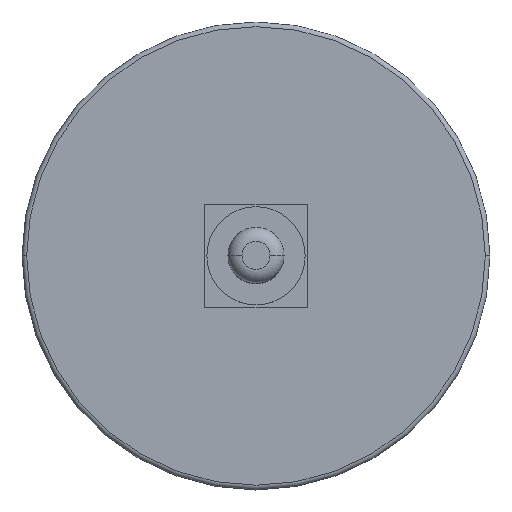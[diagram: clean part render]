
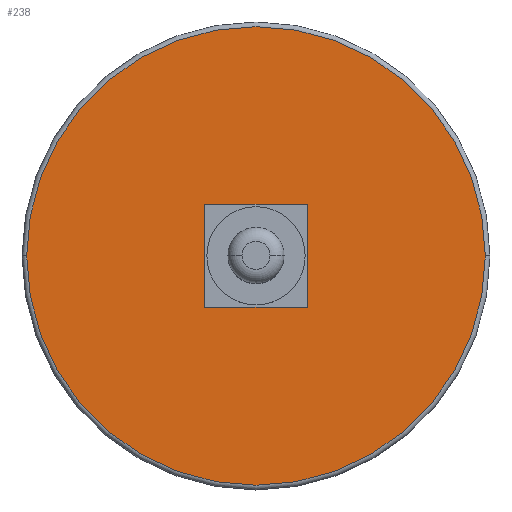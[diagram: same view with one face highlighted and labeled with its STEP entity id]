
A CAD part, top view. The second image highlights one B-rep face of the part: STEP entity #238.
In plain terms, the highlighted planar face has unit normal (0, 0, 1).
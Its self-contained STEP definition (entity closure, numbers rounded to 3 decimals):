
#19 = VECTOR ( 'NONE', #314, 1000. ) ;
#20 = LINE ( 'NONE', #566, #545 ) ;
#29 = LINE ( 'NONE', #488, #19 ) ;
#35 = ORIENTED_EDGE ( 'NONE', *, *, #577, .T. ) ;
#36 = PLANE ( 'NONE',  #229 ) ;
#41 = CIRCLE ( 'NONE', #306, 49. ) ;
#45 = CARTESIAN_POINT ( 'NONE',  ( -11., 11., 11.5 ) ) ;
#49 = AXIS2_PLACEMENT_3D ( 'NONE', #61, #252, #571 ) ;
#61 = CARTESIAN_POINT ( 'NONE',  ( 0., 0., 11.5 ) ) ;
#67 = EDGE_CURVE ( 'NONE', #437, #311, #20, .T. ) ;
#81 = DIRECTION ( 'NONE',  ( 0., 0., 1. ) ) ;
#83 = EDGE_LOOP ( 'NONE', ( #430, #125, #148, #543 ) ) ;
#95 = VECTOR ( 'NONE', #461, 1000. ) ;
#123 = DIRECTION ( 'NONE',  ( 1., 0., 0. ) ) ;
#125 = ORIENTED_EDGE ( 'NONE', *, *, #309, .F. ) ;
#127 = CARTESIAN_POINT ( 'NONE',  ( -11., -11., 11.5 ) ) ;
#148 = ORIENTED_EDGE ( 'NONE', *, *, #289, .F. ) ;
#200 = DIRECTION ( 'NONE',  ( -1., 0., 0. ) ) ;
#202 = EDGE_CURVE ( 'NONE', #395, #437, #29, .T. ) ;
#225 = EDGE_LOOP ( 'NONE', ( #35, #359 ) ) ;
#226 = CARTESIAN_POINT ( 'NONE',  ( 0., 0., 11.5 ) ) ;
#229 = AXIS2_PLACEMENT_3D ( 'NONE', #226, #405, #590 ) ;
#231 = CIRCLE ( 'NONE', #49, 49. ) ;
#233 = DIRECTION ( 'NONE',  ( 0., -1., 0. ) ) ;
#235 = CARTESIAN_POINT ( 'NONE',  ( -49., 0., 11.5 ) ) ;
#238 = ADVANCED_FACE ( 'NONE', ( #361, #353 ), #36, .T. ) ;
#252 = DIRECTION ( 'NONE',  ( 0., 0., 1. ) ) ;
#278 = LINE ( 'NONE', #409, #95 ) ;
#289 = EDGE_CURVE ( 'NONE', #311, #574, #412, .T. ) ;
#290 = CARTESIAN_POINT ( 'NONE',  ( 49., 0., 11.5 ) ) ;
#294 = VERTEX_POINT ( 'NONE', #235 ) ;
#306 = AXIS2_PLACEMENT_3D ( 'NONE', #389, #81, #123 ) ;
#309 = EDGE_CURVE ( 'NONE', #574, #395, #278, .T. ) ;
#311 = VERTEX_POINT ( 'NONE', #45 ) ;
#314 = DIRECTION ( 'NONE',  ( 0., 1., 0. ) ) ;
#353 = FACE_BOUND ( 'NONE', #83, .T. ) ;
#357 = VECTOR ( 'NONE', #233, 1000. ) ;
#359 = ORIENTED_EDGE ( 'NONE', *, *, #561, .T. ) ;
#361 = FACE_OUTER_BOUND ( 'NONE', #225, .T. ) ;
#389 = CARTESIAN_POINT ( 'NONE',  ( 0., 0., 11.5 ) ) ;
#395 = VERTEX_POINT ( 'NONE', #592 ) ;
#405 = DIRECTION ( 'NONE',  ( 0., 0., 1. ) ) ;
#409 = CARTESIAN_POINT ( 'NONE',  ( -11., -11., 11.5 ) ) ;
#412 = LINE ( 'NONE', #594, #357 ) ;
#430 = ORIENTED_EDGE ( 'NONE', *, *, #202, .F. ) ;
#434 = CARTESIAN_POINT ( 'NONE',  ( 11., 11., 11.5 ) ) ;
#437 = VERTEX_POINT ( 'NONE', #434 ) ;
#461 = DIRECTION ( 'NONE',  ( 1., 0., 0. ) ) ;
#486 = VERTEX_POINT ( 'NONE', #290 ) ;
#488 = CARTESIAN_POINT ( 'NONE',  ( 11., 11., 11.5 ) ) ;
#543 = ORIENTED_EDGE ( 'NONE', *, *, #67, .F. ) ;
#545 = VECTOR ( 'NONE', #200, 1000. ) ;
#561 = EDGE_CURVE ( 'NONE', #294, #486, #231, .T. ) ;
#566 = CARTESIAN_POINT ( 'NONE',  ( -11., 11., 11.5 ) ) ;
#571 = DIRECTION ( 'NONE',  ( 1., 0., 0. ) ) ;
#574 = VERTEX_POINT ( 'NONE', #127 ) ;
#577 = EDGE_CURVE ( 'NONE', #486, #294, #41, .T. ) ;
#590 = DIRECTION ( 'NONE',  ( 1., 0., 0. ) ) ;
#592 = CARTESIAN_POINT ( 'NONE',  ( 11., -11., 11.5 ) ) ;
#594 = CARTESIAN_POINT ( 'NONE',  ( -11., 11., 11.5 ) ) ;
